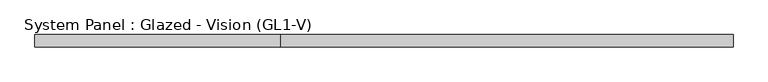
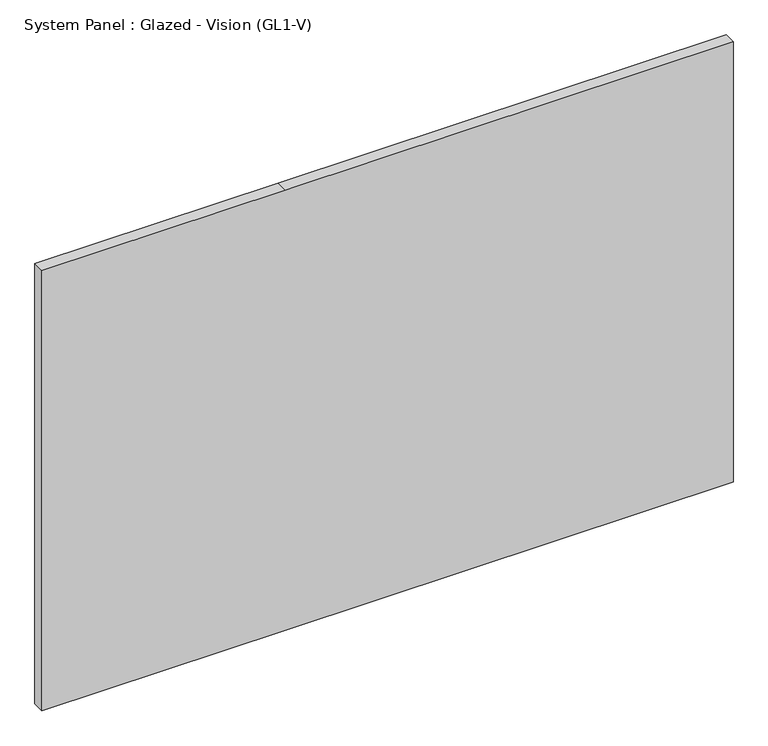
"""IFC4 building model written with IfcOpenShell, lengths in millimetres: plate geometry, System Panel : Glazed - Vision (GL1-V)."""

from ifc_helpers import new_model, si_unit, frame, origin, place, context, project, spatial, polyline, outline, extrude, source, transform, mapped, element, save


def system_panel_glazed_vision_gl1_v_ae46a1bd(model_context):
    return source(origin(), model_context, "Body", "SweptSolid", [
        extrude(outline(polyline([(0.0, -730.25), (0.0, -215.9), (0.0, 730.25), (984.25, 730.25), (984.25, -215.9), (984.25, -730.25), (0.0, -730.25)])), frame((0.0, -25.4, 0.0), z_axis=(0.0, 1.0, 0.0), x_axis=(0.0, 0.0, 1.0)), (0.0, 0.0, 1.0), 25.4),
    ])


if __name__ == "__main__":
    model = new_model("IFC4")
    model_context = context("Model", 3, world=origin())
    ifc_project = project(units=[si_unit("LENGTHUNIT", "METRE", prefix="MILLI")], contexts=[model_context])
    site = spatial("IfcSite", under=ifc_project)
    building = spatial("IfcBuilding", under=site)
    placement = place(None, origin())
    system_panel_glazed_vision_gl1_v_shape = system_panel_glazed_vision_gl1_v_ae46a1bd(model_context)
    element("IfcPlate", 1, ObjectType="System Panel : Glazed - Vision (GL1-V)", at=placement, inside=building, context=model_context, shape_type="MappedRepresentation", body=[
        mapped(system_panel_glazed_vision_gl1_v_shape, transform((0.0, 0.0, 0.0), x_axis=(1.0, 0.0, 0.0), y_axis=(0.0, 1.0, 0.0), z_axis=(0.0, 0.0, 1.0))),
    ])
    save(model, "model.ifc")
